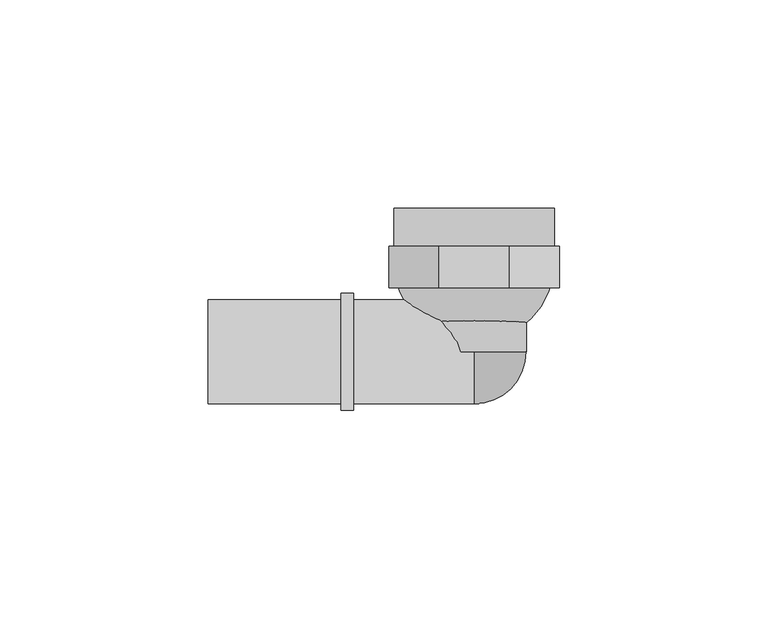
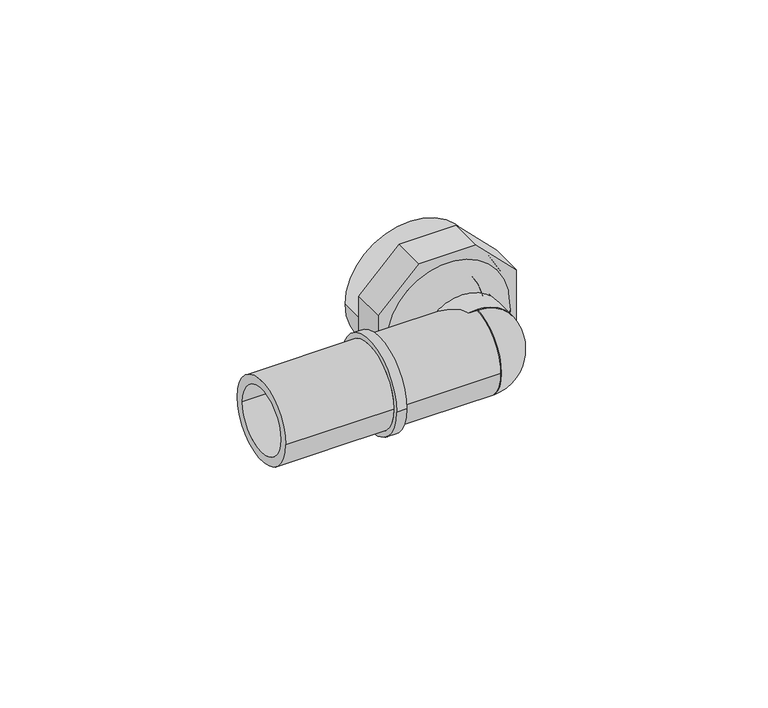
"""IFC4 building model written with IfcOpenShell, lengths in millimetres: pipe fitting geometry, FASTLOC_Elbow with female thread LX : FSL A internal PL."""

import ifcopenshell
import ifcopenshell.guid

model = None  # the IFC model being written
_history = None  # IfcOwnerHistory: only IFC2X3 demands one
_inside = {}  # id of a spatial element -> (the spatial element, [elements in it])
_under = {}  # id of a project, library or spatial element -> (it, [spatial elements below it])
_declared = {}  # id of a project -> (the project, [libraries it declares])
_typed = {}  # id of a type object -> (the type object, [elements of that type])
_made_of = {}  # id of a material, layer set ... -> (it, [elements and type objects made of it])


def new_model(schema):
    """Start an empty IFC model of exactly this schema.

    Asked for "IFC4X3", IfcOpenShell would pick the latest addendum, in which some entities
    have other attributes; the version numbers below select the first issue.
    IFC2X3 requires an IfcOwnerHistory on every rooted entity: one is made here for all.
    """
    global model, _history
    if schema == "IFC4X3":
        model = ifcopenshell.file(schema_version=(4, 3, 0, 0))
    else:
        model = ifcopenshell.file(schema=schema)
    _inside.clear()
    _under.clear()
    _declared.clear()
    _typed.clear()
    _made_of.clear()
    _history = None
    if model.schema == "IFC2X3":
        org = make("IfcOrganization", Name="unknown")
        user = make(
            "IfcPersonAndOrganization",
            ThePerson=make("IfcPerson", FamilyName="unknown"),
            TheOrganization=org,
        )
        app = make(
            "IfcApplication",
            ApplicationDeveloper=org,
            Version="unknown",
            ApplicationFullName="unknown",
            ApplicationIdentifier="unknown",
        )
        _history = make(
            "IfcOwnerHistory",
            OwningUser=user,
            OwningApplication=app,
            ChangeAction="ADDED",
            CreationDate=0,
        )
    return model


def make(cls, **values):
    """One entity of the class cls with the attributes given. An attribute that is None is left unset."""
    return model.create_entity(
        cls, **{name: value for name, value in values.items() if value is not None}
    )


def rooted(cls, **values):
    """An entity with a GlobalId (a new one), such as an element, a storey or a relation."""
    return make(cls, GlobalId=ifcopenshell.guid.new(), OwnerHistory=_history, **values)


def si_unit(unit_type, name, prefix=None):
    """IfcSIUnit, for example si_unit("LENGTHUNIT", "METRE", prefix="MILLI")."""
    return make("IfcSIUnit", UnitType=unit_type, Prefix=prefix, Name=name)


def assignment(units):
    """IfcUnitAssignment: the units of a project."""
    return None if units is None else make("IfcUnitAssignment", Units=units)


def point(xyz):
    """IfcCartesianPoint."""
    return None if xyz is None else make("IfcCartesianPoint", Coordinates=xyz)


def direction(xyz):
    """IfcDirection."""
    return None if xyz is None else make("IfcDirection", DirectionRatios=xyz)


def frame(location, z_axis=None, x_axis=None):
    """IfcAxis2Placement3D, a coordinate frame: its origin and axes. An axis left out is left unset."""
    return make(
        "IfcAxis2Placement3D",
        Location=point(location),
        Axis=direction(z_axis),
        RefDirection=direction(x_axis),
    )


def frame_2d(location, x_axis=None):
    """IfcAxis2Placement2D, a coordinate frame in the plane: its origin and x axis."""
    return make(
        "IfcAxis2Placement2D", Location=point(location), RefDirection=direction(x_axis)
    )


def origin():
    """The frame at (0, 0, 0) with its axes left unset."""
    return frame((0.0, 0.0, 0.0))


def origin_2d():
    """The frame at (0, 0) in the plane with its x axis left unset."""
    return frame_2d((0.0, 0.0))


def place(relative_to, where):
    """IfcLocalPlacement: puts the frame where relative to a parent placement (None: the world)."""
    return make(
        "IfcLocalPlacement", PlacementRelTo=relative_to, RelativePlacement=where
    )


def context(
    kind, dimensions, precision=None, world=None, true_north=None, identifier=None
):
    """IfcGeometricRepresentationContext, for example the 3D "Model" context."""
    return make(
        "IfcGeometricRepresentationContext",
        ContextIdentifier=identifier,
        ContextType=kind,
        CoordinateSpaceDimension=dimensions,
        Precision=precision,
        WorldCoordinateSystem=world,
        TrueNorth=true_north,
    )


def project(units=None, contexts=None):
    """IfcProject with its units and contexts."""
    return rooted(
        "IfcProject",
        Name="project",
        RepresentationContexts=contexts,
        UnitsInContext=assignment(units),
    )


def spatial(cls, under=None, at=None, **own):
    """A site, building, storey or space (cls), placed at a placement, below another one or the project."""
    s = rooted(cls, ObjectPlacement=at, **own)
    if under is not None:
        _under.setdefault(under.id(), (under, []))[1].append(s)
    return s


def polyline(points):
    """IfcPolyline through the points."""
    return make("IfcPolyline", Points=[point(p) for p in points])


def circle_curve(where, radius):
    """IfcCircle in the frame where."""
    return make("IfcCircle", Position=where, Radius=radius)


def ellipse_curve(where, semi_axis1, semi_axis2):
    """IfcEllipse in the frame where."""
    return make(
        "IfcEllipse", Position=where, SemiAxis1=semi_axis1, SemiAxis2=semi_axis2
    )


def trimmed(basis, trim1, trim2, sense, master):
    """IfcTrimmedCurve: the piece of a basis curve between two trims."""
    return make(
        "IfcTrimmedCurve",
        BasisCurve=basis,
        Trim1=trim1,
        Trim2=trim2,
        SenseAgreement=sense,
        MasterRepresentation=master,
    )


def segment(curve, same_sense, transition):
    """IfcCompositeCurveSegment."""
    return make(
        "IfcCompositeCurveSegment",
        Transition=transition,
        SameSense=same_sense,
        ParentCurve=curve,
    )


def composite_curve(segments, self_intersect=None):
    """IfcCompositeCurve: segments joined end to end."""
    return make("IfcCompositeCurve", Segments=segments, SelfIntersect=self_intersect)


def outline(outer, holes=None, kind="AREA"):
    """IfcArbitraryClosedProfileDef: a profile drawn as a closed curve; with holes, ...WithVoids."""
    if holes is None:
        return make("IfcArbitraryClosedProfileDef", ProfileType=kind, OuterCurve=outer)
    return make(
        "IfcArbitraryProfileDefWithVoids",
        ProfileType=kind,
        OuterCurve=outer,
        InnerCurves=holes,
    )


def extrude(swept, where, along, depth):
    """IfcExtrudedAreaSolid: the profile swept, set in the frame where, extruded along a direction by depth."""
    return make(
        "IfcExtrudedAreaSolid",
        SweptArea=swept,
        Position=where,
        ExtrudedDirection=direction(along),
        Depth=depth,
    )


def shape(context_of_items, identifier, shape_type, items):
    """IfcShapeRepresentation: the items that make up one representation, for example the "Body"."""
    return make(
        "IfcShapeRepresentation",
        ContextOfItems=context_of_items,
        RepresentationIdentifier=identifier,
        RepresentationType=shape_type,
        Items=items,
    )


def source(mapping_origin, context_of_items, identifier, shape_type, items):
    """IfcRepresentationMap: a shape defined once, which mapped items show again and again."""
    return make(
        "IfcRepresentationMap",
        MappingOrigin=mapping_origin,
        MappedRepresentation=shape(context_of_items, identifier, shape_type, items),
    )


def transform(
    local_origin,
    x_axis=None,
    y_axis=None,
    z_axis=None,
    scale=None,
    scale2=None,
    scale3=None,
    uniform=True,
):
    """IfcCartesianTransformationOperator3D, or its non-uniform kind. x_axis, y_axis, z_axis: its Axis1, 2, 3."""
    if uniform:
        return make(
            "IfcCartesianTransformationOperator3D",
            Axis1=direction(x_axis),
            Axis2=direction(y_axis),
            LocalOrigin=point(local_origin),
            Scale=scale,
            Axis3=direction(z_axis),
        )
    return make(
        "IfcCartesianTransformationOperator3DnonUniform",
        Axis1=direction(x_axis),
        Axis2=direction(y_axis),
        LocalOrigin=point(local_origin),
        Scale=scale,
        Axis3=direction(z_axis),
        Scale2=scale2,
        Scale3=scale3,
    )


def mapped(mapping_source, mapping_target):
    """IfcMappedItem: shows the shape of a source again, moved by a transform."""
    return make(
        "IfcMappedItem", MappingSource=mapping_source, MappingTarget=mapping_target
    )


def made_of(thing, what):
    """Note that an element or type object is made of a material, layer set ...; save() writes the relation."""
    if what is not None:
        _made_of.setdefault(what.id(), (what, []))[1].append(thing)
    return thing


def element(
    cls,
    number,
    at=None,
    inside=None,
    cuts=None,
    type_object=None,
    material=None,
    context=None,
    identifier="Body",
    shape_type=None,
    held_by="IfcProductDefinitionShape",
    body=None,
    shapes=None,
    **own,
):
    """One element of the class cls, such as IfcWall. Its Tag is "e" and its number.

    at: its placement. inside: the storey or other place that contains it. cuts: it is an
    opening in that element (IfcRelVoidsElement). A single representation is given by context,
    identifier, shape_type and body (its items); several are given by shapes. held_by: the class
    of the entity that holds the representations. save() writes the other relations.
    """
    e = rooted(cls, Tag="e%d" % number, ObjectPlacement=at, **own)
    if body is not None:
        shapes = [shape(context, identifier, shape_type, body)]
    if shapes is not None:
        e.Representation = make(held_by, Representations=shapes)
    if inside is not None:
        _inside.setdefault(inside.id(), (inside, []))[1].append(e)
    if cuts is not None:
        rooted(
            "IfcRelVoidsElement", RelatingBuildingElement=cuts, RelatedOpeningElement=e
        )
    if type_object is not None:
        _typed.setdefault(type_object.id(), (type_object, []))[1].append(e)
    return made_of(e, material)


def aggregate(whole, parts):
    """IfcRelAggregates: a whole, such as a stair, and the parts it consists of."""
    return rooted("IfcRelAggregates", RelatingObject=whole, RelatedObjects=parts)


def save(model, path):
    """Write the relations noted so far, then the file.

    IfcRelAggregates (storeys below a building ...), IfcRelContainedInSpatialStructure (elements
    in a storey), IfcRelDefinesByType, IfcRelAssociatesMaterial and IfcRelDeclares: one each for
    every whole, place, type object, material and project.
    """
    for whole, parts in _under.values():
        aggregate(whole, parts)
    for where, things in _inside.values():
        rooted(
            "IfcRelContainedInSpatialStructure",
            RelatedElements=things,
            RelatingStructure=where,
        )
    for kind, things in _typed.values():
        rooted("IfcRelDefinesByType", RelatedObjects=things, RelatingType=kind)
    for what, things in _made_of.values():
        rooted("IfcRelAssociatesMaterial", RelatedObjects=things, RelatingMaterial=what)
    for by, libraries in _declared.values():
        rooted("IfcRelDeclares", RelatingContext=by, RelatedDefinitions=libraries)
    model.write(path)


def plane_surface(at):
    """IfcPlane: the flat surface through the origin of the frame at, square to its z axis."""
    return make("IfcPlane", Position=at)


def cylinder_surface(at, radius):
    """IfcCylindricalSurface: all points at the distance radius from the z axis of the frame at."""
    return make("IfcCylindricalSurface", Position=at, Radius=radius)


def revolved_surface(curve, axis_point, axis_direction):
    """IfcSurfaceOfRevolution: the curve turned about the line through axis_point along axis_direction."""
    return make(
        "IfcSurfaceOfRevolution",
        SweptCurve=make("IfcArbitraryOpenProfileDef", ProfileType="CURVE", Curve=curve),
        AxisPosition=make("IfcAxis1Placement", Location=point(axis_point), Axis=direction(axis_direction)),
    )


def advanced_brep(points, edges, surfaces, faces):
    """IfcAdvancedBrep: a solid bounded by faces that lie on surfaces and meet in shared edges.

    An edge is (start, end): straight between two places in points (the first is 0);
    or (start, end, curve); or (start, end, curve, False) where it runs against its curve.
    A face is (place in surfaces, loops), or (place, loops, False) where it looks against
    its surface's normal. A loop lists edges by number (the first is 1), with a minus sign
    where the edge is run from its end to its start. The first loop is the outer one.
    """
    corners = [point(p) for p in points]
    vertices = [make("IfcVertexPoint", VertexGeometry=c) for c in corners]
    made = []
    for start, end, *more in edges:
        made.append(
            make(
                "IfcEdgeCurve",
                EdgeStart=vertices[start],
                EdgeEnd=vertices[end],
                EdgeGeometry=more[0] if more else make("IfcPolyline", Points=[corners[start], corners[end]]),
                SameSense=more[1] if len(more) > 1 else True,
            )
        )
    hull = []
    for where, loops, *sense in faces:
        bounds = []
        for j, loop in enumerate(loops):
            ring = [make("IfcOrientedEdge", EdgeElement=made[abs(k) - 1], Orientation=k > 0) for k in loop]
            bounds.append(
                make(
                    "IfcFaceOuterBound" if j == 0 else "IfcFaceBound",
                    Bound=make("IfcEdgeLoop", EdgeList=ring),
                    Orientation=True,
                )
            )
        hull.append(make("IfcAdvancedFace", Bounds=bounds, FaceSurface=surfaces[where], SameSense=sense[0] if sense else True))
    return make("IfcAdvancedBrep", Outer=make("IfcClosedShell", CfsFaces=hull))


def pipe_fitting_bca47405(model_context):
    return source(origin(), model_context, "Body", "SolidModel", [
        extrude(outline(composite_curve([segment(trimmed(circle_curve(origin_2d(), 12.5), [point((0.0, -12.5))], [point((0.0, 12.5))], False, "CARTESIAN"), True, "CONTINUOUS"), segment(trimmed(circle_curve(origin_2d(), 12.5), [point((0.0, 12.5))], [point((0.0, -12.5))], False, "CARTESIAN"), True, "CONTINUOUS")], self_intersect=False), holes=[composite_curve([segment(trimmed(circle_curve(origin_2d(), 9.85), [point((0.0, -9.85))], [point((0.0, 9.85))], True, "CARTESIAN"), True, "CONTINUOUS"), segment(trimmed(circle_curve(origin_2d(), 9.85), [point((0.0, 9.85))], [point((0.0, -9.85))], True, "CARTESIAN"), True, "CONTINUOUS")], self_intersect=False)]), frame((0.0, 0.0, 0.0), z_axis=(0.0, 1.0, 0.0), x_axis=(0.0, 0.0, 1.0)), (0.0, 0.0, 1.0), 15.4),
        extrude(outline(polyline([(-20.5, 8.491378), (-8.491378, 20.5), (8.491378, 20.5), (20.5, 8.491378), (20.5, -8.491378), (8.491378, -20.5), (-8.491378, -20.5), (-20.5, -8.491378), (-20.5, 8.491378)])), frame((0.0, 15.4, 0.0), z_axis=(0.0, 1.0, 0.0), x_axis=(0.0, 0.0, 1.0)), (0.0, 0.0, 1.0), 10.0),
        advanced_brep(
        [(0.0, 0.0, 12.5), (0.0, 0.0, 6.25), (0.0, -6.25, 0.0), (0.0, -12.5, 0.0), (0.0, 0.0, -12.5), (0.0, 0.0, -6.25)],
        [
            (0, 1),
            (1, 2, circle_curve(frame((0.0, 0.0, 0.0), z_axis=(1.0, 0.0, 0.0), x_axis=(0.0, 0.0, 1.0)), 6.25)),
            (2, 3),
            (3, 0, circle_curve(frame((0.0, 0.0, 0.0), z_axis=(-1.0, 0.0, 0.0), x_axis=(0.0, 0.0, 1.0)), 12.5)),
            (4, 3, circle_curve(frame((0.0, 0.0, 0.0), z_axis=(-1.0, 0.0, 0.0), x_axis=(0.0, 0.0, -1.0)), 12.5)),
            (2, 5, circle_curve(frame((0.0, 0.0, 0.0), z_axis=(1.0, 0.0, 0.0), x_axis=(0.0, 0.0, -1.0)), 6.25)),
            (5, 4),
            (5, 1, circle_curve(frame((0.0, 0.0, 0.0), z_axis=(0.0, -1.0, 0.0), x_axis=(0.0, 0.0, 1.0)), 6.25)),
            (0, 4, circle_curve(frame((0.0, 0.0, 0.0), z_axis=(0.0, 1.0, 0.0), x_axis=(0.0, 0.0, 1.0)), 12.5)),
        ],
        [
            plane_surface(frame((0.0, 0.0, 0.0), z_axis=(-1.0, 0.0, 0.0), x_axis=(0.0, 0.0, 1.0))),
            plane_surface(frame((0.0, 0.0, 0.0), z_axis=(-1.0, 0.0, 0.0), x_axis=(0.0, 0.0, -1.0))),
            plane_surface(frame((0.0, 0.0, 0.0), z_axis=(0.0, 1.0, 0.0), x_axis=(0.0, 0.0, 1.0))),
            revolved_surface(trimmed(ellipse_curve(frame((0.0, 0.0, 0.0), z_axis=(1.0, 0.0, 0.0), x_axis=(0.0, 0.0, 1.0)), 6.25, 6.25), [point((0.0, 0.0, 6.25))], [point((0.0, -6.25, 0.0))], True, "CARTESIAN"), (0.0, 0.0, 0.0), (0.0, 1.0, 0.0)),
            revolved_surface(trimmed(ellipse_curve(frame((0.0, 0.0, 0.0), z_axis=(-1.0, 0.0, 0.0), x_axis=(0.0, 0.0, 1.0)), 12.5, 12.5), [point((0.0, -12.5, 0.0))], [point((0.0, 0.0, 12.5))], True, "CARTESIAN"), (0.0, 0.0, 0.0), (0.0, 1.0, 0.0)),
        ],
        [
            (0, [[1, 2, 3, 4]]),
            (1, [[5, -3, 6, 7]]),
            (2, [[8, -1, 9, -7]]),
            (3, [[-2, -8, -6]]),
            (4, [[-9, -4, -5]]),
        ],
    ),
        advanced_brep(
        [(-32.0, 12.5, 0.0), (-32.0, -12.5, 0.0), (-64.0, -12.5, 0.0), (-64.0, 12.5, 0.0), (-29.0, 14.1, 0.0), (-29.0, -14.1, 0.0), (-32.0, -14.1, 0.0), (-32.0, 14.1, 0.0), (0.0, 12.5, 0.0), (0.0, -12.5, 0.0), (-29.0, -12.5, 0.0), (-29.0, 12.5, 0.0), (-64.0, 9.85, 0.0), (-64.0, -9.85, 0.0), (0.0, -9.85, 0.0), (0.0, 9.85, 0.0)],
        [
            (0, 1, circle_curve(frame((-32.0, 0.0, 0.0), z_axis=(-1.0, 0.0, 0.0), x_axis=(0.0, -1.0, 0.0)), 12.5)),
            (1, 2),
            (2, 3, circle_curve(frame((-64.0, 0.0, 0.0), z_axis=(1.0, 0.0, 0.0), x_axis=(0.0, -1.0, 0.0)), 12.5)),
            (3, 0),
            (4, 5, circle_curve(frame((-29.0, 0.0, 0.0), z_axis=(-1.0, 0.0, 0.0), x_axis=(0.0, -1.0, 0.0)), 14.1)),
            (5, 6),
            (6, 7, circle_curve(frame((-32.0, 0.0, 0.0), z_axis=(1.0, 0.0, 0.0), x_axis=(0.0, -1.0, 0.0)), 14.1)),
            (7, 4),
            (8, 9, circle_curve(frame((0.0, 0.0, 0.0), z_axis=(-1.0, 0.0, 0.0), x_axis=(0.0, -1.0, 0.0)), 12.5)),
            (9, 10),
            (10, 11, circle_curve(frame((-29.0, 0.0, 0.0), z_axis=(1.0, 0.0, 0.0), x_axis=(0.0, -1.0, 0.0)), 12.5)),
            (11, 8),
            (12, 13, circle_curve(frame((-64.0, 0.0, 0.0), z_axis=(-1.0, 0.0, 0.0), x_axis=(0.0, -1.0, 0.0)), 9.85)),
            (13, 14),
            (14, 15, circle_curve(frame((0.0, 0.0, 0.0), z_axis=(1.0, 0.0, 0.0), x_axis=(0.0, -1.0, 0.0)), 9.85)),
            (15, 12),
            (2, 3, circle_curve(frame((-64.0, 0.0, 0.0), z_axis=(-1.0, 0.0, 0.0), x_axis=(0.0, 1.0, 0.0)), 12.5)),
            (12, 13, circle_curve(frame((-64.0, 0.0, 0.0), z_axis=(1.0, 0.0, 0.0), x_axis=(0.0, 1.0, 0.0)), 9.85)),
            (1, 0, circle_curve(frame((-32.0, 0.0, 0.0), z_axis=(-1.0, 0.0, 0.0), x_axis=(0.0, 1.0, 0.0)), 12.5)),
            (6, 7, circle_curve(frame((-32.0, 0.0, 0.0), z_axis=(-1.0, 0.0, 0.0), x_axis=(0.0, 1.0, 0.0)), 14.1)),
            (5, 4, circle_curve(frame((-29.0, 0.0, 0.0), z_axis=(-1.0, 0.0, 0.0), x_axis=(0.0, 1.0, 0.0)), 14.1)),
            (10, 11, circle_curve(frame((-29.0, 0.0, 0.0), z_axis=(-1.0, 0.0, 0.0), x_axis=(0.0, 1.0, 0.0)), 12.5)),
            (9, 8, circle_curve(frame((0.0, 0.0, 0.0), z_axis=(-1.0, 0.0, 0.0), x_axis=(0.0, 1.0, 0.0)), 12.5)),
            (14, 15, circle_curve(frame((0.0, 0.0, 0.0), z_axis=(-1.0, 0.0, 0.0), x_axis=(0.0, 1.0, 0.0)), 9.85)),
        ],
        [
            cylinder_surface(frame((0.0, 0.0, 0.0), z_axis=(1.0, 0.0, 0.0), x_axis=(0.0, -1.0, 0.0)), 12.5),
            cylinder_surface(frame((0.0, 0.0, 0.0), z_axis=(1.0, 0.0, 0.0), x_axis=(0.0, -1.0, 0.0)), 14.1),
            revolved_surface(polyline([(0.0, -9.85, 0.0), (-64.0, -9.85, 0.0)]), (0.0, 0.0, 0.0), (1.0, 0.0, 0.0)),
            plane_surface(frame((-64.0, 0.0, 0.0), z_axis=(-1.0, 0.0, 0.0), x_axis=(0.0, 1.0, 0.0))),
            cylinder_surface(frame((0.0, 0.0, 0.0), z_axis=(1.0, 0.0, 0.0), x_axis=(0.0, 1.0, 0.0)), 12.5),
            plane_surface(frame((-32.0, 0.0, 0.0), z_axis=(-1.0, 0.0, 0.0), x_axis=(0.0, 1.0, 0.0))),
            cylinder_surface(frame((0.0, 0.0, 0.0), z_axis=(1.0, 0.0, 0.0), x_axis=(0.0, 1.0, 0.0)), 14.1),
            plane_surface(frame((-29.0, 0.0, 0.0), z_axis=(1.0, 0.0, 0.0), x_axis=(0.0, 1.0, 0.0))),
            plane_surface(frame((0.0, 0.0, 0.0), z_axis=(1.0, 0.0, 0.0), x_axis=(0.0, 1.0, 0.0))),
            revolved_surface(polyline([(0.0, 9.85, 0.0), (-64.0, 9.85, 0.0)]), (0.0, 0.0, 0.0), (1.0, 0.0, 0.0)),
        ],
        [
            (0, [[1, 2, 3, 4]]),
            (1, [[5, 6, 7, 8]]),
            (0, [[9, 10, 11, 12]]),
            (2, [[13, 14, 15, 16]]),
            (3, [[17, -3], [18, -13]]),
            (4, [[19, -4, -17, -2]]),
            (5, [[20, -7], [-19, -1]]),
            (6, [[21, -8, -20, -6]]),
            (7, [[-21, -5], [22, -11]]),
            (4, [[23, -12, -22, -10]]),
            (8, [[-23, -9], [24, -15]]),
            (9, [[-18, -16, -24, -14]]),
        ],
    ),
        advanced_brep(
        [(0.5, 2.2564946, 0.0), (-0.5, 2.2564946, 0.0), (-19.25, 21.5, 0.0), (19.25, 21.5, 0.0), (0.5, 9.010004, 0.0), (-0.5, 9.010004, 0.0), (12.5, 21.5, 0.0), (-12.5, 21.5, 0.0), (12.5, 34.5, 0.0), (-12.5, 34.5, 0.0), (-19.25, 34.5, 0.0), (19.25, 34.5, 0.0)],
        [
            (0, 1, circle_curve(frame((0.0, 2.2564946, 0.0), z_axis=(0.0, 1.0, 0.0), x_axis=(-1.0, 0.0, 0.0)), 0.5)),
            (1, 2, circle_curve(frame((0.0, 21.5, 0.0), z_axis=(0.0, 0.0, -1.0), x_axis=(0.0, 1.0, 0.0)), 19.25)),
            (2, 3, circle_curve(frame((0.0, 21.5, 0.0), z_axis=(0.0, -1.0, 0.0), x_axis=(-1.0, 0.0, 0.0)), 19.25)),
            (3, 0, circle_curve(frame((0.0, 21.5, 0.0), z_axis=(0.0, 0.0, -1.0), x_axis=(0.0, 1.0, 0.0)), 19.25)),
            (4, 5, circle_curve(frame((0.0, 9.010004, 0.0), z_axis=(0.0, 1.0, 0.0), x_axis=(-1.0, 0.0, 0.0)), 0.5)),
            (5, 1),
            (0, 4),
            (6, 7, circle_curve(frame((0.0, 21.5, 0.0), z_axis=(0.0, 1.0, 0.0), x_axis=(-1.0, 0.0, 0.0)), 12.5)),
            (7, 5, circle_curve(frame((0.0, 21.5, 0.0), z_axis=(0.0, 0.0, 1.0), x_axis=(0.0, 1.0, 0.0)), 12.5)),
            (4, 6, circle_curve(frame((0.0, 21.5, 0.0), z_axis=(0.0, 0.0, 1.0), x_axis=(0.0, 1.0, 0.0)), 12.5)),
            (8, 9, circle_curve(frame((0.0, 34.5, 0.0), z_axis=(0.0, 1.0, 0.0), x_axis=(-1.0, 0.0, 0.0)), 12.5)),
            (9, 7),
            (6, 8),
            (2, 10),
            (10, 11, circle_curve(frame((0.0, 34.5, 0.0), z_axis=(0.0, -1.0, 0.0), x_axis=(-1.0, 0.0, 0.0)), 19.25)),
            (11, 3),
            (1, 0, circle_curve(frame((0.0, 2.2564946, 0.0), z_axis=(0.0, 1.0, 0.0), x_axis=(1.0, 0.0, 0.0)), 0.5)),
            (3, 2, circle_curve(frame((0.0, 21.5, 0.0), z_axis=(0.0, -1.0, 0.0), x_axis=(1.0, 0.0, 0.0)), 19.25)),
            (5, 4, circle_curve(frame((0.0, 9.010004, 0.0), z_axis=(0.0, 1.0, 0.0), x_axis=(1.0, 0.0, 0.0)), 0.5)),
            (7, 6, circle_curve(frame((0.0, 21.5, 0.0), z_axis=(0.0, 1.0, 0.0), x_axis=(1.0, 0.0, 0.0)), 12.5)),
            (9, 8, circle_curve(frame((0.0, 34.5, 0.0), z_axis=(0.0, 1.0, 0.0), x_axis=(1.0, 0.0, 0.0)), 12.5)),
            (10, 11, circle_curve(frame((0.0, 34.5, 0.0), z_axis=(0.0, 1.0, 0.0), x_axis=(1.0, 0.0, 0.0)), 19.25)),
        ],
        [
            revolved_surface(trimmed(ellipse_curve(frame((0.0, 21.5, 0.0), z_axis=(0.0, 0.0, 1.0), x_axis=(0.0, 1.0, 0.0)), 19.25, 19.25), [point((-19.25, 21.5, 0.0))], [point((-0.5, 2.2564946, 0.0))], True, "CARTESIAN"), (0.0, 15.4, 0.0), (0.0, -1.0, 0.0)),
            revolved_surface(polyline([(-0.5, 2.2564946, 0.0), (-0.5, 9.010004, 0.0)]), (0.0, 15.4, 0.0), (0.0, -1.0, 0.0)),
            revolved_surface(trimmed(ellipse_curve(frame((0.0, 21.5, 0.0), z_axis=(0.0, 0.0, -1.0), x_axis=(0.0, 1.0, 0.0)), 12.5, 12.5), [point((-0.5, 9.010004, 0.0))], [point((-12.5, 21.5, 0.0))], True, "CARTESIAN"), (0.0, 15.4, 0.0), (0.0, -1.0, 0.0)),
            revolved_surface(polyline([(-12.5, 21.5, 0.0), (-12.5, 34.5, 0.0)]), (0.0, 15.4, 0.0), (0.0, -1.0, 0.0)),
            cylinder_surface(frame((0.0, 15.4, 0.0), z_axis=(0.0, -1.0, 0.0), x_axis=(-1.0, 0.0, 0.0)), 19.25),
            revolved_surface(trimmed(ellipse_curve(frame((0.0, 21.5, 0.0), z_axis=(0.0, 0.0, -1.0), x_axis=(0.0, 1.0, 0.0)), 19.25, 19.25), [point((19.25, 21.5, 0.0))], [point((0.5, 2.2564946, 0.0))], True, "CARTESIAN"), (0.0, 15.4, 0.0), (0.0, -1.0, 0.0)),
            revolved_surface(polyline([(0.5, 2.2564946, 0.0), (0.5, 9.010004, 0.0)]), (0.0, 15.4, 0.0), (0.0, -1.0, 0.0)),
            revolved_surface(trimmed(ellipse_curve(frame((0.0, 21.5, 0.0), z_axis=(0.0, 0.0, 1.0), x_axis=(0.0, 1.0, 0.0)), 12.5, 12.5), [point((0.5, 9.010004, 0.0))], [point((12.5, 21.5, 0.0))], True, "CARTESIAN"), (0.0, 15.4, 0.0), (0.0, -1.0, 0.0)),
            revolved_surface(polyline([(12.5, 21.5, 0.0), (12.5, 34.5, 0.0)]), (0.0, 15.4, 0.0), (0.0, -1.0, 0.0)),
            plane_surface(frame((0.0, 34.5, 0.0), z_axis=(0.0, 1.0, 0.0), x_axis=(1.0, 0.0, 0.0))),
            cylinder_surface(frame((0.0, 15.4, 0.0), z_axis=(0.0, -1.0, 0.0), x_axis=(1.0, 0.0, 0.0)), 19.25),
        ],
        [
            (0, [[1, 2, 3, 4]]),
            (1, [[5, 6, -1, 7]]),
            (2, [[8, 9, -5, 10]]),
            (3, [[11, 12, -8, 13]]),
            (4, [[-3, 14, 15, 16]]),
            (5, [[17, -4, 18, -2]]),
            (6, [[19, -7, -17, -6]]),
            (7, [[20, -10, -19, -9]]),
            (8, [[21, -13, -20, -12]]),
            (9, [[22, -15], [-21, -11]]),
            (10, [[-18, -16, -22, -14]]),
        ],
    ),
    ])


if __name__ == "__main__":
    model = new_model("IFC4")
    model_context = context("Model", 3, world=origin())
    ifc_project = project(units=[si_unit("LENGTHUNIT", "METRE", prefix="MILLI")], contexts=[model_context])
    site = spatial("IfcSite", under=ifc_project)
    building = spatial("IfcBuilding", under=site)
    placement = place(None, origin())
    pipe_fitting_shape = pipe_fitting_bca47405(model_context)
    element("IfcPipeFitting", 1, ObjectType="FASTLOC_Elbow with female thread LX : FSL A internal PL", at=placement, inside=building, context=model_context, shape_type="MappedRepresentation", body=[
        mapped(pipe_fitting_shape, transform((0.0, 0.0, 0.0), x_axis=(1.0, 0.0, 0.0), y_axis=(0.0, 1.0, 0.0), z_axis=(0.0, 0.0, 1.0))),
    ])
    save(model, "model.ifc")
